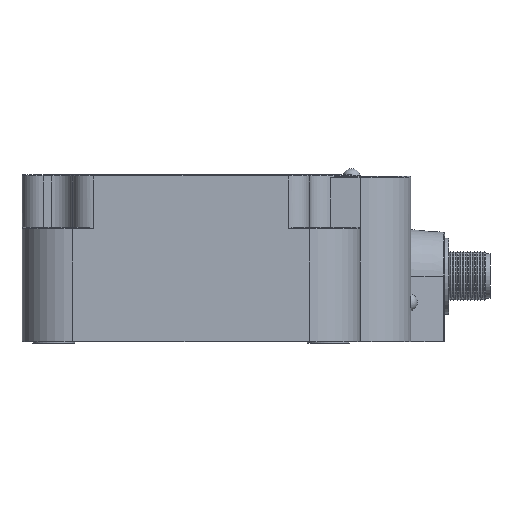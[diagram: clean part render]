
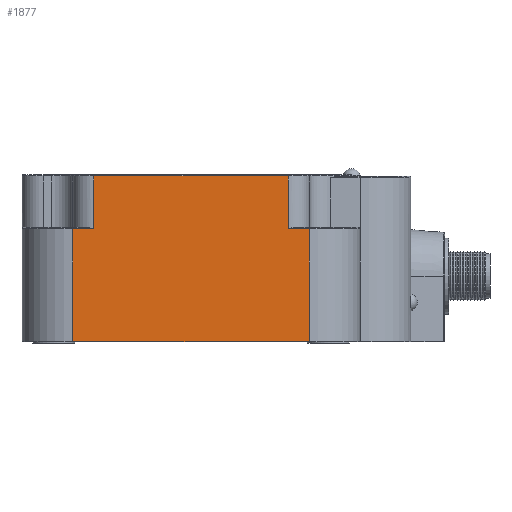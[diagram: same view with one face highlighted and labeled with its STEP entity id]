
A CAD part, left-side view. The second image highlights one B-rep face of the part: STEP entity #1877.
In plain terms, the highlighted planar face has unit normal (-1, 0, 0).
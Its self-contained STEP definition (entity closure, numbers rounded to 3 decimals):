
#506=CARTESIAN_POINT('',(-40.,-17.,19.45));
#507=VERTEX_POINT('',#506);
#517=CARTESIAN_POINT('',(-40.,-17.,6.95));
#518=VERTEX_POINT('',#517);
#519=CARTESIAN_POINT('',(-40.,-17.,6.95));
#520=DIRECTION('',(0.0,0.0,1.0));
#521=VECTOR('',#520,12.5);
#522=LINE('',#519,#521);
#523=EDGE_CURVE('',#518,#507,#522,.T.);
#850=CARTESIAN_POINT('',(-40.0,29.,19.45));
#851=VERTEX_POINT('',#850);
#861=CARTESIAN_POINT('',(-40.0,29.,6.95));
#862=VERTEX_POINT('',#861);
#876=CARTESIAN_POINT('',(-40.0,29.,6.95));
#877=DIRECTION('',(0.0,0.0,1.0));
#878=VECTOR('',#877,12.5);
#879=LINE('',#876,#878);
#880=EDGE_CURVE('',#862,#851,#879,.T.);
#1757=CARTESIAN_POINT('',(-40.0,34.,6.95));
#1758=VERTEX_POINT('',#1757);
#1767=CARTESIAN_POINT('',(-40.0,34.,-19.75));
#1768=VERTEX_POINT('',#1767);
#1776=CARTESIAN_POINT('',(-40.0,34.,-19.75));
#1777=DIRECTION('',(0.0,0.0,1.0));
#1778=VECTOR('',#1777,26.7);
#1779=LINE('',#1776,#1778);
#1780=EDGE_CURVE('',#1768,#1758,#1779,.T.);
#1799=CARTESIAN_POINT('',(-40.0,34.,6.95));
#1800=DIRECTION('',(0.0,-1.0,0.0));
#1801=VECTOR('',#1800,5.0);
#1802=LINE('',#1799,#1801);
#1803=EDGE_CURVE('',#1758,#862,#1802,.T.);
#1838=CARTESIAN_POINT('',(-40.,-22.,-19.75));
#1839=DIRECTION('',(-1.0,0.0,0.0));
#1840=DIRECTION('',(0.0,0.0,1.0));
#1841=AXIS2_PLACEMENT_3D('',#1838,#1839,#1840);
#1842=PLANE('',#1841);
#1843=CARTESIAN_POINT('',(-40.0,29.,19.45));
#1844=DIRECTION('',(0.0,-1.0,0.0));
#1845=VECTOR('',#1844,46.);
#1846=LINE('',#1843,#1845);
#1847=EDGE_CURVE('',#851,#507,#1846,.T.);
#1848=ORIENTED_EDGE('',*,*,#1847,.F.);
#1849=ORIENTED_EDGE('',*,*,#880,.F.);
#1850=ORIENTED_EDGE('',*,*,#1803,.F.);
#1851=ORIENTED_EDGE('',*,*,#1780,.F.);
#1852=CARTESIAN_POINT('',(-40.,-22.,-19.75));
#1853=VERTEX_POINT('',#1852);
#1854=CARTESIAN_POINT('',(-40.0,34.,-19.75));
#1855=DIRECTION('',(0.0,-1.0,0.0));
#1856=VECTOR('',#1855,56.);
#1857=LINE('',#1854,#1856);
#1858=EDGE_CURVE('',#1768,#1853,#1857,.T.);
#1859=ORIENTED_EDGE('',*,*,#1858,.T.);
#1860=CARTESIAN_POINT('',(-40.,-22.,6.95));
#1861=VERTEX_POINT('',#1860);
#1862=CARTESIAN_POINT('',(-40.,-22.,-19.75));
#1863=DIRECTION('',(0.0,0.0,1.0));
#1864=VECTOR('',#1863,26.7);
#1865=LINE('',#1862,#1864);
#1866=EDGE_CURVE('',#1853,#1861,#1865,.T.);
#1867=ORIENTED_EDGE('',*,*,#1866,.T.);
#1868=CARTESIAN_POINT('',(-40.,-17.,6.95));
#1869=DIRECTION('',(0.0,-1.0,0.0));
#1870=VECTOR('',#1869,5.0);
#1871=LINE('',#1868,#1870);
#1872=EDGE_CURVE('',#518,#1861,#1871,.T.);
#1873=ORIENTED_EDGE('',*,*,#1872,.F.);
#1874=ORIENTED_EDGE('',*,*,#523,.T.);
#1875=EDGE_LOOP('',(#1848,#1849,#1850,#1851,#1859,#1867,#1873,#1874));
#1876=FACE_OUTER_BOUND('',#1875,.T.);
#1877=ADVANCED_FACE('',(#1876),#1842,.T.);
